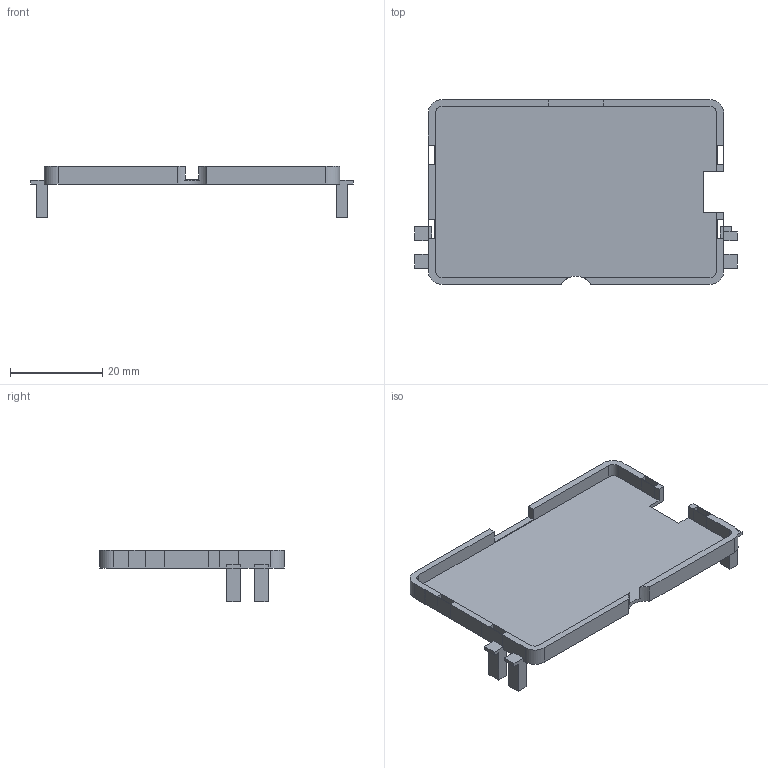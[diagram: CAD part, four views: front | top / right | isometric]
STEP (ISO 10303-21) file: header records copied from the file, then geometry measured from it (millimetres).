
FILE_DESCRIPTION(('Open CASCADE Model'),'2;1');
FILE_NAME('Open CASCADE Shape Model','2026-09-09T11:50:24',('Author'),( 'Open CASCADE'),'Open CASCADE STEP processor 7.7','Open CASCADE 7.7' ,'Unknown');
FILE_SCHEMA(('AUTOMOTIVE_DESIGN { 1 0 10303 214 1 1 1 1 }'));
Length unit declared in the file: millimetre
Products named in the file (1): Open CASCADE STEP translator 7.7 8
Bounding box: 69.8 x 40 x 11.05 mm (x, y, z)
Volume: 2912.6 mm3; surface area: 6770.8 mm2
Topology: 1 solids, 1 shells, 93 faces, 279 edges, 186 vertices
Faces by surface type: plane 84, cylinder 9
Entity records: 6757 total; most frequent: CARTESIAN_POINT 1178, DIRECTION 1024, LINE 784, VECTOR 784, ORIENTED_EDGE 558, PCURVE 558, DEFINITIONAL_REPRESENTATION 558, EDGE_CURVE 279
